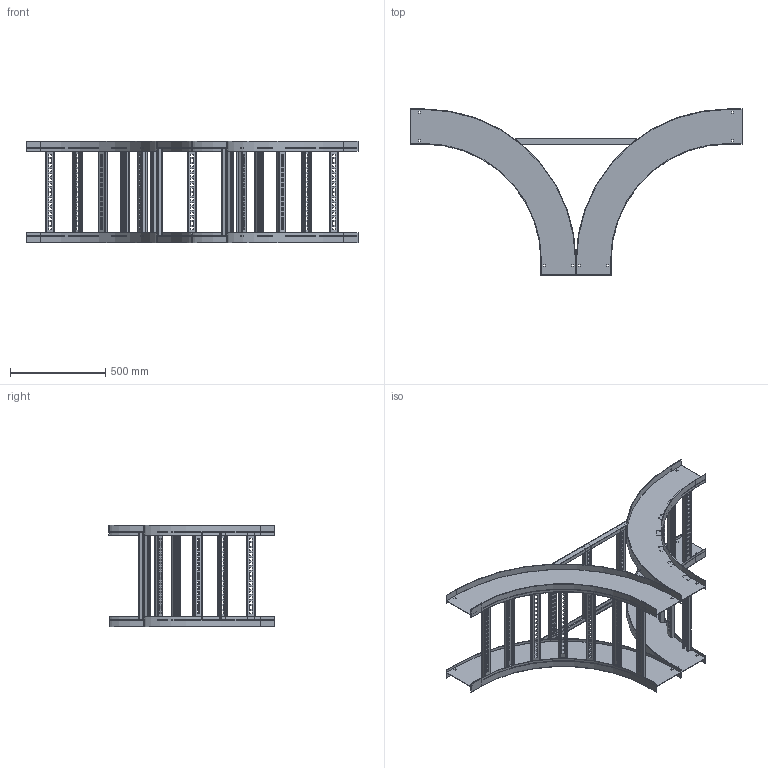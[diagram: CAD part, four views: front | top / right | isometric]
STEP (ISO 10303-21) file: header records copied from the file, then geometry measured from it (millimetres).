
FILE_DESCRIPTION((''),'2;1');
FILE_NAME('AHF718VVTD24_ASM','2010-01-27T',('erouzier'),(''),'PRO/ENGINEER BY PARAMETRIC TECHNOLOGY CORPORATION, 2008510','PRO/ENGINEER BY PARAMETRIC TECHNOLOGY CORPORATION, 2008510','');
FILE_SCHEMA(('CONFIG_CONTROL_DESIGN'));
Length unit declared in the file: inch
Products named in the file (6): CDS001658_7_90_24; CDS002159L18-P; AHF718VVO9024_ASM; CDS000495_GEN_AF6; CDS000495_GEN_AF7; AHF718VVTD24_ASM
Assembly tree (16 placements, depth 3):
  AHF718VVTD24_ASM
    AHF718VVO9024_ASM  x2
      CDS001658_7_90_24
      CDS002159L18-P
    CDS000495_GEN_AF6
    CDS000495_GEN_AF7
    CDS002159L18-P  x3
Bounding box: 1739.39 x 869.7 x 529.84 mm (x, y, z)
Volume: 4895673.9 mm3; surface area: 4732410.4 mm2
Topology: 23 solids, 23 shells, 2874 faces, 8484 edges, 5656 vertices
Faces by surface type: plane 1571, cylinder 1303
Entity records: 7625 total; most frequent: DIRECTION 1316, CARTESIAN_POINT 1311, ORIENTED_EDGE 1272, EDGE_CURVE 636, VECTOR 458, LINE 458, AXIS2_PLACEMENT_3D 429, VERTEX_POINT 424
